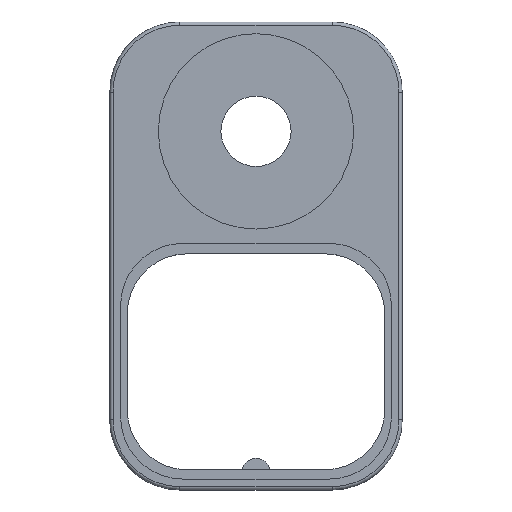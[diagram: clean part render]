
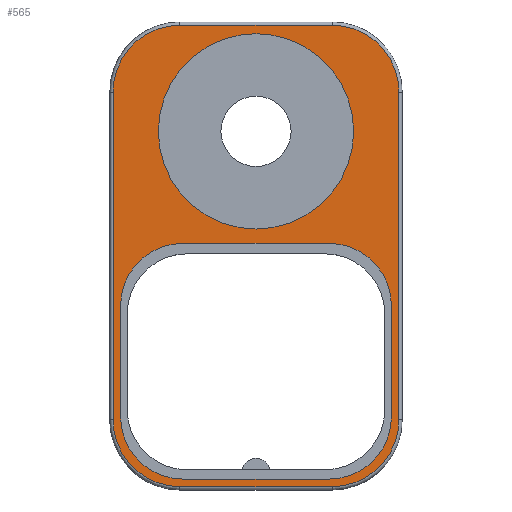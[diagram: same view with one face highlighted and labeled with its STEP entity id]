
A CAD part, top view. The second image highlights one B-rep face of the part: STEP entity #565.
In plain terms, the highlighted planar face has unit normal (0, 0, 1).
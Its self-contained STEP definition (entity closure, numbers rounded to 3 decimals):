
#160 = VERTEX_POINT('',#161);
#161 = CARTESIAN_POINT('',(0.55,12.,13.5));
#170 = VERTEX_POINT('',#171);
#171 = CARTESIAN_POINT('',(12.,0.55,13.5));
#178 = EDGE_CURVE('',#160,#170,#179,.T.);
#179 = CIRCLE('',#180,11.45);
#180 = AXIS2_PLACEMENT_3D('',#181,#182,#183);
#181 = CARTESIAN_POINT('',(12.,12.,13.5));
#182 = DIRECTION('',(0.,0.,1.));
#183 = DIRECTION('',(-1.,0.,0.));
#520 = EDGE_CURVE('',#170,#521,#523,.T.);
#521 = VERTEX_POINT('',#522);
#522 = CARTESIAN_POINT('',(38.,0.55,13.5));
#523 = LINE('',#524,#525);
#524 = CARTESIAN_POINT('',(12.,0.55,13.5));
#525 = VECTOR('',#526,1.);
#526 = DIRECTION('',(1.,0.,0.));
#545 = VERTEX_POINT('',#546);
#546 = CARTESIAN_POINT('',(0.55,68.,13.5));
#553 = EDGE_CURVE('',#545,#160,#554,.T.);
#554 = LINE('',#555,#556);
#555 = CARTESIAN_POINT('',(0.55,68.,13.5));
#556 = VECTOR('',#557,1.);
#557 = DIRECTION('',(-0.,-1.,-0.));
#565 = ADVANCED_FACE('',(#566,#612,#682),#693,.T.);
#566 = FACE_BOUND('',#567,.T.);
#567 = EDGE_LOOP('',(#568,#569,#570,#579,#587,#596,#604,#611));
#568 = ORIENTED_EDGE('',*,*,#178,.T.);
#569 = ORIENTED_EDGE('',*,*,#520,.T.);
#570 = ORIENTED_EDGE('',*,*,#571,.T.);
#571 = EDGE_CURVE('',#521,#572,#574,.T.);
#572 = VERTEX_POINT('',#573);
#573 = CARTESIAN_POINT('',(49.45,12.,13.5));
#574 = CIRCLE('',#575,11.45);
#575 = AXIS2_PLACEMENT_3D('',#576,#577,#578);
#576 = CARTESIAN_POINT('',(38.,12.,13.5));
#577 = DIRECTION('',(-0.,0.,1.));
#578 = DIRECTION('',(0.,-1.,0.));
#579 = ORIENTED_EDGE('',*,*,#580,.T.);
#580 = EDGE_CURVE('',#572,#581,#583,.T.);
#581 = VERTEX_POINT('',#582);
#582 = CARTESIAN_POINT('',(49.45,68.,13.5));
#583 = LINE('',#584,#585);
#584 = CARTESIAN_POINT('',(49.45,12.,13.5));
#585 = VECTOR('',#586,1.);
#586 = DIRECTION('',(0.,1.,0.));
#587 = ORIENTED_EDGE('',*,*,#588,.T.);
#588 = EDGE_CURVE('',#581,#589,#591,.T.);
#589 = VERTEX_POINT('',#590);
#590 = CARTESIAN_POINT('',(38.,79.45,13.5));
#591 = CIRCLE('',#592,11.45);
#592 = AXIS2_PLACEMENT_3D('',#593,#594,#595);
#593 = CARTESIAN_POINT('',(38.,68.,13.5));
#594 = DIRECTION('',(0.,0.,1.));
#595 = DIRECTION('',(1.,0.,0.));
#596 = ORIENTED_EDGE('',*,*,#597,.T.);
#597 = EDGE_CURVE('',#589,#598,#600,.T.);
#598 = VERTEX_POINT('',#599);
#599 = CARTESIAN_POINT('',(12.,79.45,13.5));
#600 = LINE('',#601,#602);
#601 = CARTESIAN_POINT('',(38.,79.45,13.5));
#602 = VECTOR('',#603,1.);
#603 = DIRECTION('',(-1.,-0.,-0.));
#604 = ORIENTED_EDGE('',*,*,#605,.T.);
#605 = EDGE_CURVE('',#598,#545,#606,.T.);
#606 = CIRCLE('',#607,11.45);
#607 = AXIS2_PLACEMENT_3D('',#608,#609,#610);
#608 = CARTESIAN_POINT('',(12.,68.,13.5));
#609 = DIRECTION('',(0.,-0.,1.));
#610 = DIRECTION('',(0.,1.,0.));
#611 = ORIENTED_EDGE('',*,*,#553,.T.);
#612 = FACE_BOUND('',#613,.T.);
#613 = EDGE_LOOP('',(#614,#624,#633,#641,#650,#658,#667,#675));
#614 = ORIENTED_EDGE('',*,*,#615,.T.);
#615 = EDGE_CURVE('',#616,#618,#620,.T.);
#616 = VERTEX_POINT('',#617);
#617 = CARTESIAN_POINT('',(37.5,1.85,13.5));
#618 = VERTEX_POINT('',#619);
#619 = CARTESIAN_POINT('',(12.5,1.85,13.5));
#620 = LINE('',#621,#622);
#621 = CARTESIAN_POINT('',(18.75,1.85,13.5));
#622 = VECTOR('',#623,1.);
#623 = DIRECTION('',(-1.,0.,0.));
#624 = ORIENTED_EDGE('',*,*,#625,.T.);
#625 = EDGE_CURVE('',#618,#626,#628,.T.);
#626 = VERTEX_POINT('',#627);
#627 = CARTESIAN_POINT('',(1.85,12.5,13.5));
#628 = CIRCLE('',#629,10.65);
#629 = AXIS2_PLACEMENT_3D('',#630,#631,#632);
#630 = CARTESIAN_POINT('',(12.5,12.5,13.5));
#631 = DIRECTION('',(0.,0.,-1.));
#632 = DIRECTION('',(1.,0.,0.));
#633 = ORIENTED_EDGE('',*,*,#634,.T.);
#634 = EDGE_CURVE('',#626,#635,#637,.T.);
#635 = VERTEX_POINT('',#636);
#636 = CARTESIAN_POINT('',(1.85,31.5,13.5));
#637 = LINE('',#638,#639);
#638 = CARTESIAN_POINT('',(1.85,26.25,13.5));
#639 = VECTOR('',#640,1.);
#640 = DIRECTION('',(0.,1.,0.));
#641 = ORIENTED_EDGE('',*,*,#642,.T.);
#642 = EDGE_CURVE('',#635,#643,#645,.T.);
#643 = VERTEX_POINT('',#644);
#644 = CARTESIAN_POINT('',(12.5,42.15,13.5));
#645 = CIRCLE('',#646,10.65);
#646 = AXIS2_PLACEMENT_3D('',#647,#648,#649);
#647 = CARTESIAN_POINT('',(12.5,31.5,13.5));
#648 = DIRECTION('',(0.,0.,-1.));
#649 = DIRECTION('',(1.,0.,0.));
#650 = ORIENTED_EDGE('',*,*,#651,.F.);
#651 = EDGE_CURVE('',#652,#643,#654,.T.);
#652 = VERTEX_POINT('',#653);
#653 = CARTESIAN_POINT('',(37.5,42.15,13.5));
#654 = LINE('',#655,#656);
#655 = CARTESIAN_POINT('',(18.75,42.15,13.5));
#656 = VECTOR('',#657,1.);
#657 = DIRECTION('',(-1.,0.,0.));
#658 = ORIENTED_EDGE('',*,*,#659,.T.);
#659 = EDGE_CURVE('',#652,#660,#662,.T.);
#660 = VERTEX_POINT('',#661);
#661 = CARTESIAN_POINT('',(48.15,31.5,13.5));
#662 = CIRCLE('',#663,10.65);
#663 = AXIS2_PLACEMENT_3D('',#664,#665,#666);
#664 = CARTESIAN_POINT('',(37.5,31.5,13.5));
#665 = DIRECTION('',(0.,0.,-1.));
#666 = DIRECTION('',(1.,0.,0.));
#667 = ORIENTED_EDGE('',*,*,#668,.F.);
#668 = EDGE_CURVE('',#669,#660,#671,.T.);
#669 = VERTEX_POINT('',#670);
#670 = CARTESIAN_POINT('',(48.15,12.5,13.5));
#671 = LINE('',#672,#673);
#672 = CARTESIAN_POINT('',(48.15,26.25,13.5));
#673 = VECTOR('',#674,1.);
#674 = DIRECTION('',(0.,1.,0.));
#675 = ORIENTED_EDGE('',*,*,#676,.T.);
#676 = EDGE_CURVE('',#669,#616,#677,.T.);
#677 = CIRCLE('',#678,10.65);
#678 = AXIS2_PLACEMENT_3D('',#679,#680,#681);
#679 = CARTESIAN_POINT('',(37.5,12.5,13.5));
#680 = DIRECTION('',(0.,0.,-1.));
#681 = DIRECTION('',(1.,0.,0.));
#682 = FACE_BOUND('',#683,.T.);
#683 = EDGE_LOOP('',(#684));
#684 = ORIENTED_EDGE('',*,*,#685,.T.);
#685 = EDGE_CURVE('',#686,#686,#688,.T.);
#686 = VERTEX_POINT('',#687);
#687 = CARTESIAN_POINT('',(41.7,61.3,13.5));
#688 = CIRCLE('',#689,16.7);
#689 = AXIS2_PLACEMENT_3D('',#690,#691,#692);
#690 = CARTESIAN_POINT('',(25.,61.3,13.5));
#691 = DIRECTION('',(0.,0.,-1.));
#692 = DIRECTION('',(1.,0.,0.));
#693 = PLANE('',#694);
#694 = AXIS2_PLACEMENT_3D('',#695,#696,#697);
#695 = CARTESIAN_POINT('',(25.,40.,13.5));
#696 = DIRECTION('',(0.,0.,1.));
#697 = DIRECTION('',(1.,0.,0.));
